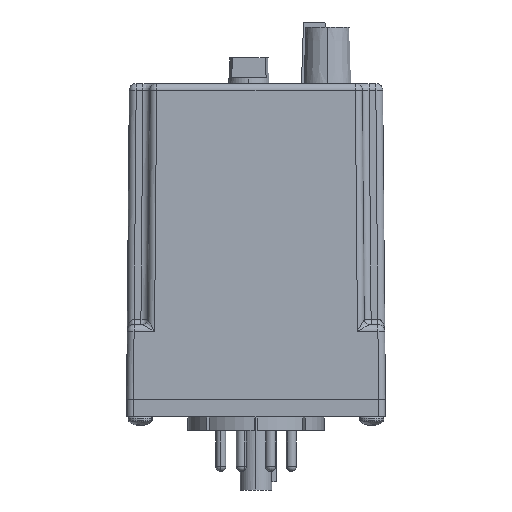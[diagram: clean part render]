
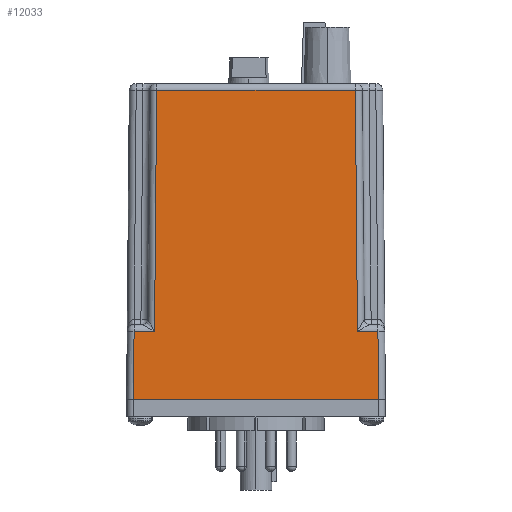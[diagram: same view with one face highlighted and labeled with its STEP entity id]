
A CAD part, left-side view. The second image highlights one B-rep face of the part: STEP entity #12033.
In plain terms, the highlighted planar face has unit normal (-1, 0, 0.009).
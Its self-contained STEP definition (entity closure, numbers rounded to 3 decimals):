
#1261 = VECTOR ( 'NONE', #32875, 1000. ) ;
#2354 = CARTESIAN_POINT ( 'NONE',  ( -22.225, -30.163, 0. ) ) ;
#3037 = EDGE_CURVE ( 'NONE', #10958, #6040, #12596, .T. ) ;
#3124 = LINE ( 'NONE', #13247, #30071 ) ;
#3871 = VECTOR ( 'NONE', #29908, 1000. ) ;
#3976 = LINE ( 'NONE', #14749, #3871 ) ;
#4119 = LINE ( 'NONE', #17248, #1261 ) ;
#5128 = VERTEX_POINT ( 'NONE', #20118 ) ;
#5175 = CARTESIAN_POINT ( 'NONE',  ( -21.596, 23.158, 72.074 ) ) ;
#5255 = ORIENTED_EDGE ( 'NONE', *, *, #7577, .T. ) ;
#5532 = CARTESIAN_POINT ( 'NONE',  ( -22.086, -28.424, 15.889 ) ) ;
#5602 = VECTOR ( 'NONE', #26821, 1000. ) ;
#6040 = VERTEX_POINT ( 'NONE', #17320 ) ;
#6072 = VERTEX_POINT ( 'NONE', #5175 ) ;
#6629 = ORIENTED_EDGE ( 'NONE', *, *, #3037, .T. ) ;
#7527 = VECTOR ( 'NONE', #20251, 1000. ) ;
#7577 = EDGE_CURVE ( 'NONE', #10592, #10958, #3976, .T. ) ;
#7753 = FACE_OUTER_BOUND ( 'NONE', #31994, .T. ) ;
#9675 = CARTESIAN_POINT ( 'NONE',  ( -22.221, 23.783, 0.471 ) ) ;
#10308 = ORIENTED_EDGE ( 'NONE', *, *, #32616, .T. ) ;
#10592 = VERTEX_POINT ( 'NONE', #13356 ) ;
#10872 = LINE ( 'NONE', #9675, #5602 ) ;
#10958 = VERTEX_POINT ( 'NONE', #5532 ) ;
#12033 = ADVANCED_FACE ( 'NONE', ( #7753 ), #30046, .T. ) ;
#12232 = EDGE_CURVE ( 'NONE', #18327, #10592, #15150, .T. ) ;
#12596 = LINE ( 'NONE', #20083, #7527 ) ;
#13124 = LINE ( 'NONE', #25608, #32132 ) ;
#13247 = CARTESIAN_POINT ( 'NONE',  ( -21.596, 23.144, 72.074 ) ) ;
#13356 = CARTESIAN_POINT ( 'NONE',  ( -22.225, -28.562, 0. ) ) ;
#14749 = CARTESIAN_POINT ( 'NONE',  ( -22.225, -28.562, -0.014 ) ) ;
#15150 = LINE ( 'NONE', #2354, #32266 ) ;
#15329 = VERTEX_POINT ( 'NONE', #20787 ) ;
#16399 = ORIENTED_EDGE ( 'NONE', *, *, #31525, .T. ) ;
#16756 = VECTOR ( 'NONE', #27529, 1000. ) ;
#16881 = CARTESIAN_POINT ( 'NONE',  ( -22.225, 28.562, 0. ) ) ;
#17248 = CARTESIAN_POINT ( 'NONE',  ( -22.086, 28.41, 15.889 ) ) ;
#17320 = CARTESIAN_POINT ( 'NONE',  ( -22.086, -23.649, 15.889 ) ) ;
#18327 = VERTEX_POINT ( 'NONE', #16881 ) ;
#19187 = DIRECTION ( 'NONE',  ( 0., -1., 0. ) ) ;
#19543 = ORIENTED_EDGE ( 'NONE', *, *, #29800, .T. ) ;
#20083 = CARTESIAN_POINT ( 'NONE',  ( -22.086, -23.635, 15.889 ) ) ;
#20118 = CARTESIAN_POINT ( 'NONE',  ( -21.596, -23.158, 72.074 ) ) ;
#20212 = DIRECTION ( 'NONE',  ( -1., 0., 0.009 ) ) ;
#20251 = DIRECTION ( 'NONE',  ( 0., 1., 0. ) ) ;
#20787 = CARTESIAN_POINT ( 'NONE',  ( -22.086, 28.424, 15.889 ) ) ;
#20989 = VERTEX_POINT ( 'NONE', #30031 ) ;
#22173 = AXIS2_PLACEMENT_3D ( 'NONE', #27700, #20212, #30698 ) ;
#22507 = ORIENTED_EDGE ( 'NONE', *, *, #12232, .T. ) ;
#23241 = DIRECTION ( 'NONE',  ( 0., 1., 0. ) ) ;
#23851 = ORIENTED_EDGE ( 'NONE', *, *, #26522, .T. ) ;
#24110 = CARTESIAN_POINT ( 'NONE',  ( -22.225, -23.788, -0.056 ) ) ;
#24501 = ORIENTED_EDGE ( 'NONE', *, *, #29106, .T. ) ;
#25608 = CARTESIAN_POINT ( 'NONE',  ( -22.221, 28.558, 0.512 ) ) ;
#26522 = EDGE_CURVE ( 'NONE', #20989, #15329, #4119, .T. ) ;
#26821 = DIRECTION ( 'NONE',  ( -0.009, 0.009, -1. ) ) ;
#27529 = DIRECTION ( 'NONE',  ( 0.009, 0.009, 1. ) ) ;
#27700 = CARTESIAN_POINT ( 'NONE',  ( -22.225, -30.163, 0. ) ) ;
#28592 = DIRECTION ( 'NONE',  ( -0.009, 0.009, -1. ) ) ;
#29106 = EDGE_CURVE ( 'NONE', #15329, #18327, #13124, .T. ) ;
#29800 = EDGE_CURVE ( 'NONE', #6072, #20989, #10872, .T. ) ;
#29874 = LINE ( 'NONE', #24110, #16756 ) ;
#29908 = DIRECTION ( 'NONE',  ( 0.009, 0.009, 1. ) ) ;
#30031 = CARTESIAN_POINT ( 'NONE',  ( -22.086, 23.649, 15.889 ) ) ;
#30046 = PLANE ( 'NONE',  #22173 ) ;
#30071 = VECTOR ( 'NONE', #23241, 1000. ) ;
#30698 = DIRECTION ( 'NONE',  ( 0.009, 0., 1. ) ) ;
#31525 = EDGE_CURVE ( 'NONE', #6040, #5128, #29874, .T. ) ;
#31994 = EDGE_LOOP ( 'NONE', ( #19543, #23851, #24501, #22507, #5255, #6629, #16399, #10308 ) ) ;
#32132 = VECTOR ( 'NONE', #28592, 1000. ) ;
#32266 = VECTOR ( 'NONE', #19187, 1000. ) ;
#32616 = EDGE_CURVE ( 'NONE', #5128, #6072, #3124, .T. ) ;
#32875 = DIRECTION ( 'NONE',  ( 0., 1., 0. ) ) ;
